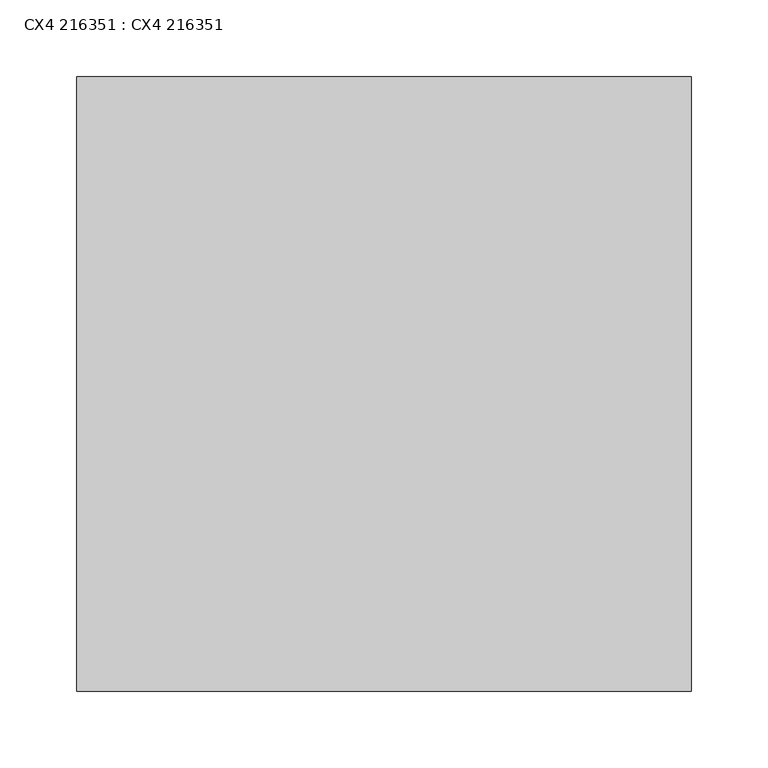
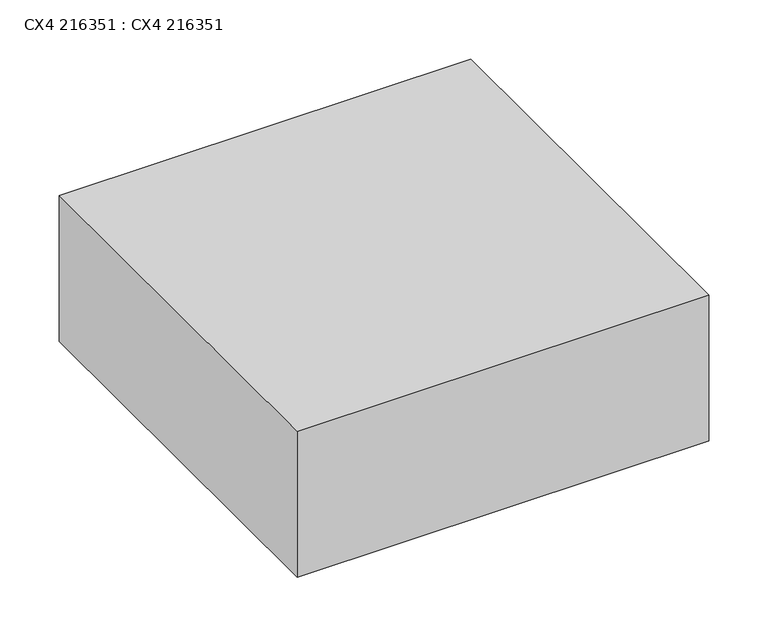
"""IFC4 building model written with IfcOpenShell, lengths in millimetres: proxy geometry, CX4 216351 : CX4 216351."""

import ifcopenshell
import ifcopenshell.guid

model = None  # the IFC model being written
_history = None  # IfcOwnerHistory: only IFC2X3 demands one
_inside = {}  # id of a spatial element -> (the spatial element, [elements in it])
_under = {}  # id of a project, library or spatial element -> (it, [spatial elements below it])
_declared = {}  # id of a project -> (the project, [libraries it declares])
_typed = {}  # id of a type object -> (the type object, [elements of that type])
_made_of = {}  # id of a material, layer set ... -> (it, [elements and type objects made of it])


def new_model(schema):
    """Start an empty IFC model of exactly this schema.

    Asked for "IFC4X3", IfcOpenShell would pick the latest addendum, in which some entities
    have other attributes; the version numbers below select the first issue.
    IFC2X3 requires an IfcOwnerHistory on every rooted entity: one is made here for all.
    """
    global model, _history
    if schema == "IFC4X3":
        model = ifcopenshell.file(schema_version=(4, 3, 0, 0))
    else:
        model = ifcopenshell.file(schema=schema)
    _inside.clear()
    _under.clear()
    _declared.clear()
    _typed.clear()
    _made_of.clear()
    _history = None
    if model.schema == "IFC2X3":
        org = make("IfcOrganization", Name="unknown")
        user = make(
            "IfcPersonAndOrganization",
            ThePerson=make("IfcPerson", FamilyName="unknown"),
            TheOrganization=org,
        )
        app = make(
            "IfcApplication",
            ApplicationDeveloper=org,
            Version="unknown",
            ApplicationFullName="unknown",
            ApplicationIdentifier="unknown",
        )
        _history = make(
            "IfcOwnerHistory",
            OwningUser=user,
            OwningApplication=app,
            ChangeAction="ADDED",
            CreationDate=0,
        )
    return model


def make(cls, **values):
    """One entity of the class cls with the attributes given. An attribute that is None is left unset."""
    return model.create_entity(
        cls, **{name: value for name, value in values.items() if value is not None}
    )


def rooted(cls, **values):
    """An entity with a GlobalId (a new one), such as an element, a storey or a relation."""
    return make(cls, GlobalId=ifcopenshell.guid.new(), OwnerHistory=_history, **values)


def si_unit(unit_type, name, prefix=None):
    """IfcSIUnit, for example si_unit("LENGTHUNIT", "METRE", prefix="MILLI")."""
    return make("IfcSIUnit", UnitType=unit_type, Prefix=prefix, Name=name)


def assignment(units):
    """IfcUnitAssignment: the units of a project."""
    return None if units is None else make("IfcUnitAssignment", Units=units)


def point(xyz):
    """IfcCartesianPoint."""
    return None if xyz is None else make("IfcCartesianPoint", Coordinates=xyz)


def direction(xyz):
    """IfcDirection."""
    return None if xyz is None else make("IfcDirection", DirectionRatios=xyz)


def frame(location, z_axis=None, x_axis=None):
    """IfcAxis2Placement3D, a coordinate frame: its origin and axes. An axis left out is left unset."""
    return make(
        "IfcAxis2Placement3D",
        Location=point(location),
        Axis=direction(z_axis),
        RefDirection=direction(x_axis),
    )


def origin():
    """The frame at (0, 0, 0) with its axes left unset."""
    return frame((0.0, 0.0, 0.0))


def place(relative_to, where):
    """IfcLocalPlacement: puts the frame where relative to a parent placement (None: the world)."""
    return make(
        "IfcLocalPlacement", PlacementRelTo=relative_to, RelativePlacement=where
    )


def context(
    kind, dimensions, precision=None, world=None, true_north=None, identifier=None
):
    """IfcGeometricRepresentationContext, for example the 3D "Model" context."""
    return make(
        "IfcGeometricRepresentationContext",
        ContextIdentifier=identifier,
        ContextType=kind,
        CoordinateSpaceDimension=dimensions,
        Precision=precision,
        WorldCoordinateSystem=world,
        TrueNorth=true_north,
    )


def project(units=None, contexts=None):
    """IfcProject with its units and contexts."""
    return rooted(
        "IfcProject",
        Name="project",
        RepresentationContexts=contexts,
        UnitsInContext=assignment(units),
    )


def spatial(cls, under=None, at=None, **own):
    """A site, building, storey or space (cls), placed at a placement, below another one or the project."""
    s = rooted(cls, ObjectPlacement=at, **own)
    if under is not None:
        _under.setdefault(under.id(), (under, []))[1].append(s)
    return s


def polyline(points):
    """IfcPolyline through the points."""
    return make("IfcPolyline", Points=[point(p) for p in points])


def outline(outer, holes=None, kind="AREA"):
    """IfcArbitraryClosedProfileDef: a profile drawn as a closed curve; with holes, ...WithVoids."""
    if holes is None:
        return make("IfcArbitraryClosedProfileDef", ProfileType=kind, OuterCurve=outer)
    return make(
        "IfcArbitraryProfileDefWithVoids",
        ProfileType=kind,
        OuterCurve=outer,
        InnerCurves=holes,
    )


def extrude(swept, where, along, depth):
    """IfcExtrudedAreaSolid: the profile swept, set in the frame where, extruded along a direction by depth."""
    return make(
        "IfcExtrudedAreaSolid",
        SweptArea=swept,
        Position=where,
        ExtrudedDirection=direction(along),
        Depth=depth,
    )


def shape(context_of_items, identifier, shape_type, items):
    """IfcShapeRepresentation: the items that make up one representation, for example the "Body"."""
    return make(
        "IfcShapeRepresentation",
        ContextOfItems=context_of_items,
        RepresentationIdentifier=identifier,
        RepresentationType=shape_type,
        Items=items,
    )


def source(mapping_origin, context_of_items, identifier, shape_type, items):
    """IfcRepresentationMap: a shape defined once, which mapped items show again and again."""
    return make(
        "IfcRepresentationMap",
        MappingOrigin=mapping_origin,
        MappedRepresentation=shape(context_of_items, identifier, shape_type, items),
    )


def transform(
    local_origin,
    x_axis=None,
    y_axis=None,
    z_axis=None,
    scale=None,
    scale2=None,
    scale3=None,
    uniform=True,
):
    """IfcCartesianTransformationOperator3D, or its non-uniform kind. x_axis, y_axis, z_axis: its Axis1, 2, 3."""
    if uniform:
        return make(
            "IfcCartesianTransformationOperator3D",
            Axis1=direction(x_axis),
            Axis2=direction(y_axis),
            LocalOrigin=point(local_origin),
            Scale=scale,
            Axis3=direction(z_axis),
        )
    return make(
        "IfcCartesianTransformationOperator3DnonUniform",
        Axis1=direction(x_axis),
        Axis2=direction(y_axis),
        LocalOrigin=point(local_origin),
        Scale=scale,
        Axis3=direction(z_axis),
        Scale2=scale2,
        Scale3=scale3,
    )


def mapped(mapping_source, mapping_target):
    """IfcMappedItem: shows the shape of a source again, moved by a transform."""
    return make(
        "IfcMappedItem", MappingSource=mapping_source, MappingTarget=mapping_target
    )


def made_of(thing, what):
    """Note that an element or type object is made of a material, layer set ...; save() writes the relation."""
    if what is not None:
        _made_of.setdefault(what.id(), (what, []))[1].append(thing)
    return thing


def element(
    cls,
    number,
    at=None,
    inside=None,
    cuts=None,
    type_object=None,
    material=None,
    context=None,
    identifier="Body",
    shape_type=None,
    held_by="IfcProductDefinitionShape",
    body=None,
    shapes=None,
    **own,
):
    """One element of the class cls, such as IfcWall. Its Tag is "e" and its number.

    at: its placement. inside: the storey or other place that contains it. cuts: it is an
    opening in that element (IfcRelVoidsElement). A single representation is given by context,
    identifier, shape_type and body (its items); several are given by shapes. held_by: the class
    of the entity that holds the representations. save() writes the other relations.
    """
    e = rooted(cls, Tag="e%d" % number, ObjectPlacement=at, **own)
    if body is not None:
        shapes = [shape(context, identifier, shape_type, body)]
    if shapes is not None:
        e.Representation = make(held_by, Representations=shapes)
    if inside is not None:
        _inside.setdefault(inside.id(), (inside, []))[1].append(e)
    if cuts is not None:
        rooted(
            "IfcRelVoidsElement", RelatingBuildingElement=cuts, RelatedOpeningElement=e
        )
    if type_object is not None:
        _typed.setdefault(type_object.id(), (type_object, []))[1].append(e)
    return made_of(e, material)


def aggregate(whole, parts):
    """IfcRelAggregates: a whole, such as a stair, and the parts it consists of."""
    return rooted("IfcRelAggregates", RelatingObject=whole, RelatedObjects=parts)


def save(model, path):
    """Write the relations noted so far, then the file.

    IfcRelAggregates (storeys below a building ...), IfcRelContainedInSpatialStructure (elements
    in a storey), IfcRelDefinesByType, IfcRelAssociatesMaterial and IfcRelDeclares: one each for
    every whole, place, type object, material and project.
    """
    for whole, parts in _under.values():
        aggregate(whole, parts)
    for where, things in _inside.values():
        rooted(
            "IfcRelContainedInSpatialStructure",
            RelatedElements=things,
            RelatingStructure=where,
        )
    for kind, things in _typed.values():
        rooted("IfcRelDefinesByType", RelatedObjects=things, RelatingType=kind)
    for what, things in _made_of.values():
        rooted("IfcRelAssociatesMaterial", RelatedObjects=things, RelatingMaterial=what)
    for by, libraries in _declared.values():
        rooted("IfcRelDeclares", RelatingContext=by, RelatedDefinitions=libraries)
    model.write(path)


def cx4_216351_cx4_216351_59def8b1(model_context):
    return source(origin(), model_context, "Body", "SweptSolid", [
        extrude(outline(polyline([(26772.9, 16630.6), (27172.9, 16630.6), (27172.9, 16230.6), (26772.9, 16230.6), (26772.9, 16630.6)])), frame((0.0, 0.0, 2880.0), z_axis=(0.0, 0.0, 1.0), x_axis=(1.0, 0.0, 0.0)), (0.0, 0.0, 1.0), 150.0),
    ])


if __name__ == "__main__":
    model = new_model("IFC4")
    model_context = context("Model", 3, world=origin())
    ifc_project = project(units=[si_unit("LENGTHUNIT", "METRE", prefix="MILLI")], contexts=[model_context])
    site = spatial("IfcSite", under=ifc_project)
    building = spatial("IfcBuilding", under=site)
    placement = place(None, origin())
    cx4_216351_cx4_216351_shape = cx4_216351_cx4_216351_59def8b1(model_context)
    element("IfcBuildingElementProxy", 1, Name="CX4 216351 : CX4 216351", ObjectType="CX4 216351 : CX4 216351", at=placement, inside=building, context=model_context, shape_type="MappedRepresentation", body=[
        mapped(cx4_216351_cx4_216351_shape, transform((0.0, 0.0, 0.0), x_axis=(1.0, 0.0, 0.0), y_axis=(0.0, 1.0, 0.0), z_axis=(0.0, 0.0, 1.0))),
    ])
    save(model, "model.ifc")
